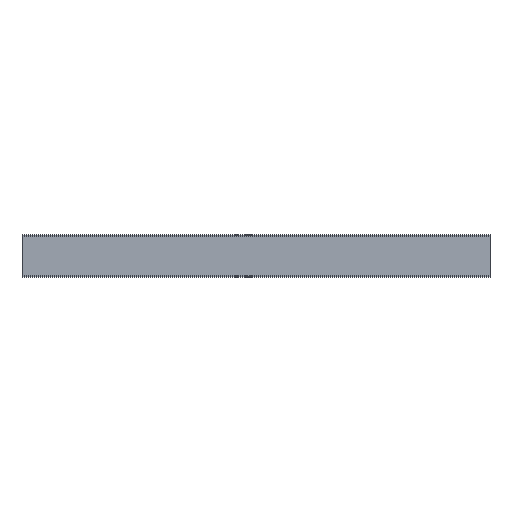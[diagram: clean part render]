
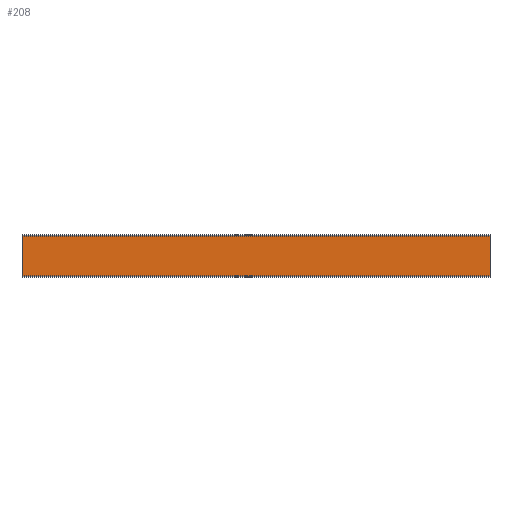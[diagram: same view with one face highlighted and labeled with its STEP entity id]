
A CAD part, top view. The second image highlights one B-rep face of the part: STEP entity #208.
In plain terms, the highlighted planar face has unit normal (0, 0, 1).
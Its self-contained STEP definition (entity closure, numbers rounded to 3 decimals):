
#113 = CARTESIAN_POINT ( 'NONE',  ( 1000., 42., 42. ) ) ;
#193 = VECTOR ( 'NONE', #677, 1000. ) ;
#208 = ADVANCED_FACE ( 'NONE', ( #4511 ), #3066, .F. ) ;
#266 = CARTESIAN_POINT ( 'NONE',  ( 1000., 42., 42. ) ) ;
#278 = CARTESIAN_POINT ( 'NONE',  ( 1000., 42., 42. ) ) ;
#636 = DIRECTION ( 'NONE',  ( -1., 0., 0. ) ) ;
#677 = DIRECTION ( 'NONE',  ( 0., -1., 0. ) ) ;
#1366 = VECTOR ( 'NONE', #636, 1000. ) ;
#1515 = EDGE_CURVE ( 'NONE', #1774, #5131, #3938, .T. ) ;
#1548 = VECTOR ( 'NONE', #4086, 1000. ) ;
#1570 = CARTESIAN_POINT ( 'NONE',  ( 0., 42., 42. ) ) ;
#1768 = LINE ( 'NONE', #5236, #2637 ) ;
#1774 = VERTEX_POINT ( 'NONE', #2227 ) ;
#1805 = AXIS2_PLACEMENT_3D ( 'NONE', #113, #3486, #3509 ) ;
#1963 = ORIENTED_EDGE ( 'NONE', *, *, #1515, .T. ) ;
#2116 = EDGE_CURVE ( 'NONE', #4600, #3445, #5282, .T. ) ;
#2227 = CARTESIAN_POINT ( 'NONE',  ( 0., 42., 42. ) ) ;
#2453 = CARTESIAN_POINT ( 'NONE',  ( 1000., -42., 42. ) ) ;
#2637 = VECTOR ( 'NONE', #5255, 1000. ) ;
#3066 = PLANE ( 'NONE',  #1805 ) ;
#3445 = VERTEX_POINT ( 'NONE', #2453 ) ;
#3470 = ORIENTED_EDGE ( 'NONE', *, *, #2116, .F. ) ;
#3486 = DIRECTION ( 'NONE',  ( 0., 0., -1. ) ) ;
#3509 = DIRECTION ( 'NONE',  ( 0., 1., 0. ) ) ;
#3783 = EDGE_CURVE ( 'NONE', #3445, #5131, #1768, .T. ) ;
#3901 = CARTESIAN_POINT ( 'NONE',  ( 0., -42., 42. ) ) ;
#3938 = LINE ( 'NONE', #1570, #1548 ) ;
#3945 = ORIENTED_EDGE ( 'NONE', *, *, #3783, .F. ) ;
#4086 = DIRECTION ( 'NONE',  ( 0., -1., 0. ) ) ;
#4511 = FACE_OUTER_BOUND ( 'NONE', #5269, .T. ) ;
#4600 = VERTEX_POINT ( 'NONE', #266 ) ;
#4898 = EDGE_CURVE ( 'NONE', #4600, #1774, #5517, .T. ) ;
#4950 = CARTESIAN_POINT ( 'NONE',  ( 1000., 42., 42. ) ) ;
#5131 = VERTEX_POINT ( 'NONE', #3901 ) ;
#5135 = ORIENTED_EDGE ( 'NONE', *, *, #4898, .T. ) ;
#5236 = CARTESIAN_POINT ( 'NONE',  ( 1000., -42., 42. ) ) ;
#5255 = DIRECTION ( 'NONE',  ( -1., 0., 0. ) ) ;
#5269 = EDGE_LOOP ( 'NONE', ( #1963, #3945, #3470, #5135 ) ) ;
#5282 = LINE ( 'NONE', #278, #193 ) ;
#5517 = LINE ( 'NONE', #4950, #1366 ) ;
